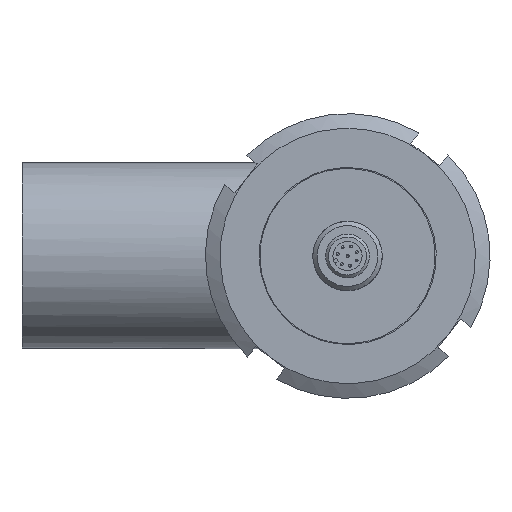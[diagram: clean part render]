
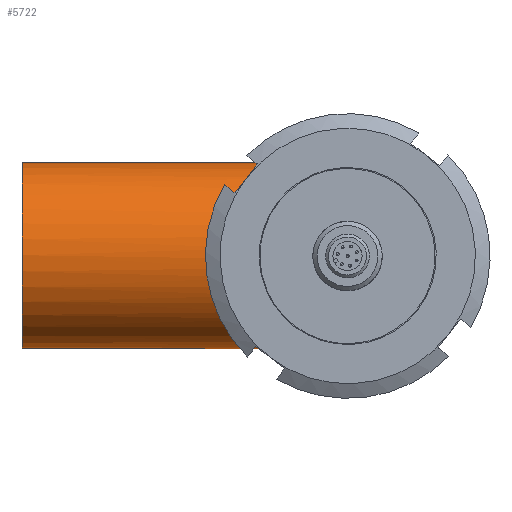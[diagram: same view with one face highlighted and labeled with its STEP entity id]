
A CAD part, front view. The second image highlights one B-rep face of the part: STEP entity #5722.
In plain terms, the highlighted cylindrical face has radius 25.475 mm (diameter 50.951 mm), a full revolution.
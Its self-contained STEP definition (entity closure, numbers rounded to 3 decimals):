
#53=ELLIPSE('',#6082,36.027,25.475);
#54=ELLIPSE('',#6083,36.027,25.475);
#760=CYLINDRICAL_SURFACE('',#6081,25.475);
#1871=ORIENTED_EDGE('',*,*,#2446,.T.);
#1872=ORIENTED_EDGE('',*,*,#2448,.T.);
#1873=ORIENTED_EDGE('',*,*,#2449,.T.);
#2446=EDGE_CURVE('',#2836,#2836,#3003,.T.);
#2448=EDGE_CURVE('',#2838,#2839,#53,.T.);
#2449=EDGE_CURVE('',#2839,#2838,#54,.F.);
#2836=VERTEX_POINT('',#12994);
#2838=VERTEX_POINT('',#13000);
#2839=VERTEX_POINT('',#13001);
#3003=CIRCLE('',#6078,25.475);
#3356=EDGE_LOOP('',(#1871));
#3357=EDGE_LOOP('',(#1872,#1873));
#3727=FACE_BOUND('',#3356,.T.);
#3728=FACE_BOUND('',#3357,.T.);
#5722=ADVANCED_FACE('',(#3727,#3728),#760,.T.);
#6078=AXIS2_PLACEMENT_3D('',#12993,#6909,#6910);
#6081=AXIS2_PLACEMENT_3D('',#12998,#6915,#6916);
#6082=AXIS2_PLACEMENT_3D('',#12999,#6917,#6918);
#6083=AXIS2_PLACEMENT_3D('',#13002,#6919,#6920);
#6909=DIRECTION('',(1.,0.,-0.002));
#6910=DIRECTION('',(0.,1.,0.));
#6915=DIRECTION('',(1.,0.,-0.002));
#6916=DIRECTION('',(-0.002,0.,-1.));
#6917=DIRECTION('',(-0.707,-0.707,0.002));
#6918=DIRECTION('',(0.707,-0.707,-0.002));
#6919=DIRECTION('',(0.707,-0.707,-0.002));
#6920=DIRECTION('',(-0.707,-0.707,0.002));
#12993=CARTESIAN_POINT('',(-89.19,-10.141,0.205));
#12994=CARTESIAN_POINT('',(-89.19,15.334,0.205));
#12998=CARTESIAN_POINT('',(-91.19,-10.141,0.21));
#12999=CARTESIAN_POINT('',(0.,-10.141,0.));
#13000=CARTESIAN_POINT('',(0.059,-10.141,25.475));
#13001=CARTESIAN_POINT('',(-0.059,-10.141,-25.475));
#13002=CARTESIAN_POINT('',(0.,-10.141,0.));
